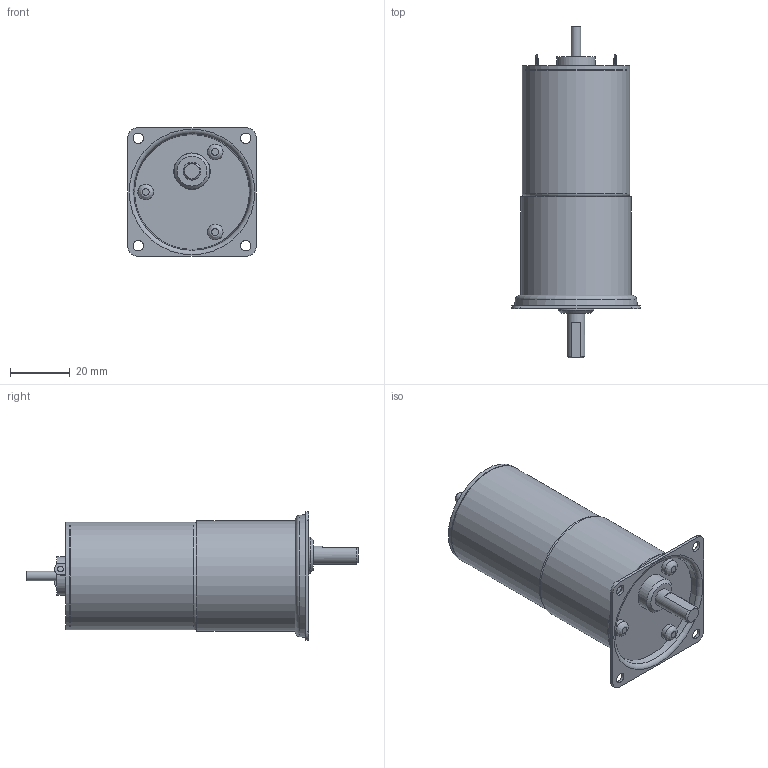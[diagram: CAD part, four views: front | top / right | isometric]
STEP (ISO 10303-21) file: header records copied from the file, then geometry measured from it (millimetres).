
FILE_DESCRIPTION((''),'2;1');
FILE_NAME('C:\Documents and Settings\SSEGAWA\デスクトップ\TP-3644L-PM-6.STP','2013-07-26T18:59:55',('SSEGAWA'),(''),'Autodesk Inventor 2010','Autodesk Inventor 2010','');
FILE_SCHEMA(('CONFIG_CONTROL_DESIGN'));
Length unit declared in the file: millimetre
Products named in the file (1): tp_3644l_pm_6_Shrinkwrap_1
Bounding box: 43 x 111.3 x 43 mm (x, y, z)
Volume: 83662.8 mm3; surface area: 15380.7 mm2
Topology: 1 solids, 12 shells, 105 faces, 209 edges, 139 vertices
Faces by surface type: plane 47, cylinder 27, bspline 23, torus 4, cone 4
Full cylindrical faces by diameter (mm): 3 x1, 3.175 x1, 3.5 x1, 4 x3, 5.3 x3, 6 x1, 12 x1, 12.2 x1, 13 x1, 35.6 x1, 36 x2, 37 x1
Entity records: 2825 total; most frequent: CARTESIAN_POINT 837, DIRECTION 397, ORIENTED_EDGE 278, AXIS2_PLACEMENT_3D 177, EDGE_LOOP 175, EDGE_CURVE 139, VERTEX_POINT 116, STYLED_ITEM 106
